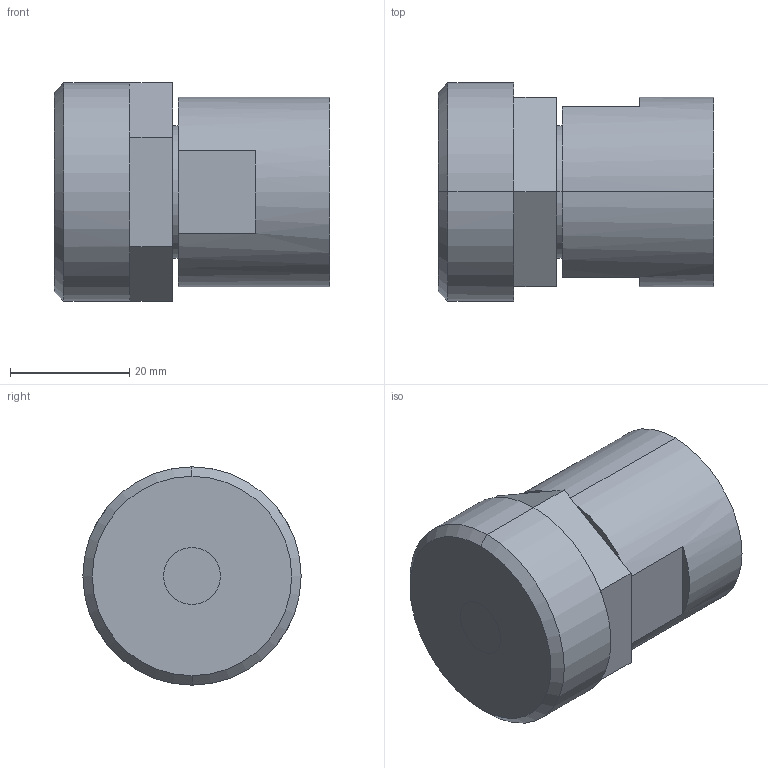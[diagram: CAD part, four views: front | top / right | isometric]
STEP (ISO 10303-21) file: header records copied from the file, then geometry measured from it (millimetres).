
FILE_DESCRIPTION (( 'STEP AP214' ), '1' );
FILE_NAME ('06-fnpt-with-top-mount-adapter.STEP', '2012-11-27T22:55:54', ( '' ), ( '' ), 'SwSTEP 2.0', 'SolidWorks 2012', '' );
FILE_SCHEMA (( 'AUTOMOTIVE_DESIGN' ));
Length unit declared in the file: inch
Products named in the file (1): 06-fnpt-with-top-mount-adapter
Bounding box: 46.15 x 36.6 x 36.66 mm (x, y, z)
Surface area: 8767.9 mm2 (no closed solid volume)
Topology: 0 solids, 2 shells, 41 faces, 90 edges, 56 vertices
Faces by surface type: plane 29, cylinder 10, cone 2
Entity records: 1217 total; most frequent: DIRECTION 214, CARTESIAN_POINT 188, ORIENTED_EDGE 178, EDGE_CURVE 90, AXIS2_PLACEMENT_3D 82, VERTEX_POINT 56, VECTOR 50, LINE 50
